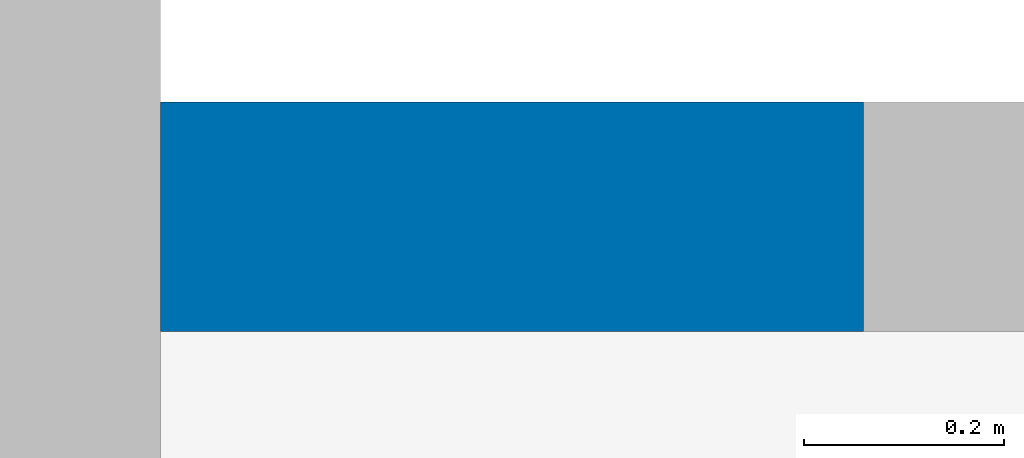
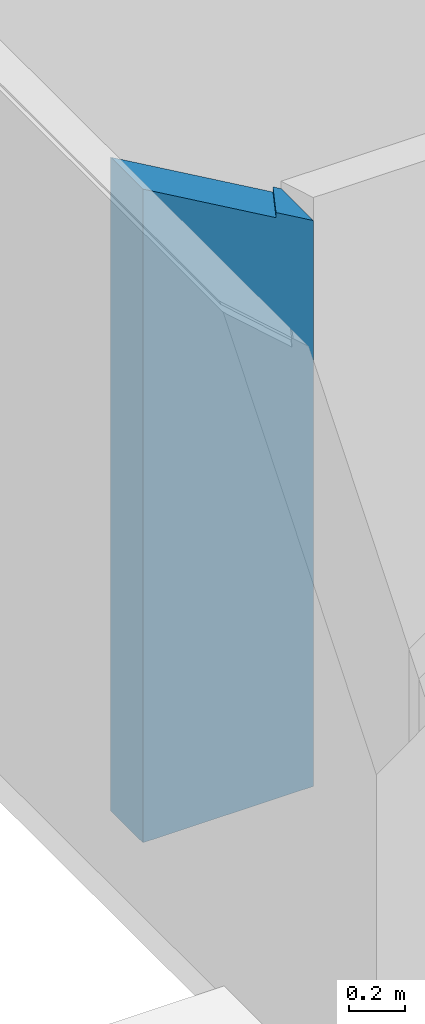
# One storey, part 7 of 8: 1 wall.
"""IFC2X3 building model written with IfcOpenShell, lengths in metres."""

from ifc_helpers import new_model, entity, si_unit, converted_unit, derived_unit, money_unit, direction, frame, origin_with_axes, place, context, subcontext, project, spatial, polyline, outline, extrude, boolean, clip, bounded_halfspace, faceted_brep, material, type_object, element, save


model = new_model("IFC2X3")

# Units and contexts
model_context = context("Model", 3, precision=1e-05, world=origin_with_axes(), true_north=direction((0.0, 1.0)))
body_context = subcontext(model_context, "Body", "Model", "MODEL_VIEW")
ifc_project = project(units=[si_unit("LENGTHUNIT", "METRE"), si_unit("AREAUNIT", "SQUARE_METRE"), si_unit("VOLUMEUNIT", "CUBIC_METRE"), converted_unit("PLANEANGLEUNIT", "DEGREE", entity("IfcPlaneAngleMeasure", 0.0174532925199), si_unit("PLANEANGLEUNIT", "RADIAN"), dimensions=[0, 0, 0, 0, 0, 0, 0]), si_unit("SOLIDANGLEUNIT", "STERADIAN"), money_unit("CHF"), converted_unit("TIMEUNIT", "Year", entity("IfcTimeMeasure", 31556926.0), si_unit("TIMEUNIT", "SECOND"), dimensions=[0, 0, 1, 0, 0, 0, 0]), si_unit("MASSUNIT", "GRAM", prefix="KILO"), si_unit("THERMODYNAMICTEMPERATUREUNIT", "DEGREE_CELSIUS"), si_unit("LUMINOUSINTENSITYUNIT", "LUMEN"), si_unit("ENERGYUNIT", "JOULE", prefix="MEGA"), derived_unit("THERMALCONDUCTANCEUNIT", [(si_unit("POWERUNIT", "WATT"), 1), (si_unit("LENGTHUNIT", "METRE"), -1), (si_unit("THERMODYNAMICTEMPERATUREUNIT", "KELVIN"), -1)]), derived_unit("SPECIFICHEATCAPACITYUNIT", [(si_unit("ENERGYUNIT", "JOULE"), 1), (si_unit("MASSUNIT", "GRAM", prefix="KILO"), -1), (si_unit("THERMODYNAMICTEMPERATUREUNIT", "KELVIN"), -1)]), derived_unit("MASSDENSITYUNIT", [(si_unit("MASSUNIT", "GRAM", prefix="KILO"), 1), (si_unit("VOLUMEUNIT", "CUBIC_METRE"), -1)])], contexts=[model_context])

# Site, building, storey
site_placement = place(None, origin_with_axes())
site = spatial("IfcSite", under=ifc_project, at=site_placement, Name="Site", CompositionType="ELEMENT")
building_placement = place(site_placement, origin_with_axes())
building = spatial("IfcBuilding", under=site, at=building_placement, Name="Bâtiment", CompositionType="ELEMENT")
storey_placement = place(building_placement, frame((0.0, 0.0, 6.0), z_axis=(0.0, 0.0, 1.0), x_axis=(1.0, 0.0, 0.0)))
storey = spatial("IfcBuildingStorey", under=building, at=storey_placement, Name="COMBLES", CompositionType="ELEMENT", Elevation=6.0)

# Wall
ifc_material = material(Name="Hachure solide 2628782308")
wall_type = type_object("IfcWallType", Name="Hachure solide 2628782308 230", PredefinedType="NOTDEFINED")
wall_placement = place(storey_placement, frame((92.6776186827, 15.5803410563, -3.37), z_axis=(0.0, 0.0, 1.0), x_axis=(-1.0, 0.0, 0.0)))
element("IfcWall", 1, at=wall_placement, inside=storey, type_object=wall_type, material=ifc_material, Name="MurExt-017", context=body_context, shape_type="CSG", body=[
    boolean("DIFFERENCE", clip(clip(clip(clip(clip(extrude(outline(polyline([(0.0, 0.0), (0.93409963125, 0.0), (0.93409963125, 0.23), (0.0, 0.23), (0.0, 0.0)])), origin_with_axes(), (0.0, 0.0, 1.0), 3.0), bounded_halfspace(frame((0.0, -0.68204972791, 2.30256129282), z_axis=(0.0, 0.284015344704, -0.958819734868), x_axis=(0.0, 0.958819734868, 0.284015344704)), True, origin_with_axes(), polyline([(-4.28581049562, -0.01), (0.0286590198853, -0.01), (0.158927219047, 0.24), (-4.16075302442, 0.24), (-4.28581049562, 0.0), (-4.28581049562, -0.01)]))), bounded_halfspace(frame((0.0, -0.68204972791, 2.30256129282), z_axis=(0.0, 0.284015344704, -0.958819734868), x_axis=(0.0, 0.958819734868, 0.284015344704)), True, origin_with_axes(), polyline([(-4.28581049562, -0.01), (0.0286590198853, -0.01), (0.158927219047, 0.24), (-4.16075302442, 0.24), (-4.28581049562, 0.0), (-4.28581049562, -0.01)]))), bounded_halfspace(frame((0.0, -0.68204972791, 2.30256129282), z_axis=(0.0, 0.284015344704, -0.958819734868), x_axis=(0.0, 0.958819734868, 0.284015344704)), True, origin_with_axes(), polyline([(-4.28581049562, -0.01), (0.0286590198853, -0.01), (0.158927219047, 0.24), (-4.16075302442, 0.24), (-4.28581049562, 0.0), (-4.28581049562, -0.01)]))), bounded_halfspace(frame((-1.07054656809, 0.0, 1.8542410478), z_axis=(0.5, 0.0, -0.866025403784), x_axis=(0.0, 1.0, 0.0)), True, origin_with_axes(), polyline([(-4.16585945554, -0.01), (1.99895228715, -0.01), (2.12400976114, 0.23), (2.12400976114, 0.24), (-4.04080198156, 0.24), (-4.16585945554, 0.0), (-4.16585945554, -0.01)]))), bounded_halfspace(frame((-1.07487669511, 0.0, 1.8617410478), z_axis=(0.5, 0.0, -0.866025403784), x_axis=(0.0, 1.0, 0.0)), True, origin_with_axes(), polyline([(-4.16585945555, -0.01), (1.99895228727, -0.01), (2.12400975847, 0.23), (2.12400975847, 0.24), (-4.04080198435, 0.24), (-4.16585945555, 0.0), (-4.16585945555, -0.01)]))), faceted_brep([(0.0338697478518, 0.0, 2.51342311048), (0.0338697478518, 0.0, 2.52545260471), (0.0, 0.0, 2.52545260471), (0.0, 0.0, 2.50459362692), (0.033869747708, 2.61190180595e-10, 2.50459362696), (0.0338697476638, 3.41577433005e-10, 2.50187610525), (0.70409963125, 0.0, 2.88883350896), (0.70409963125, 0.0, 2.87944464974), (0.0338697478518, 0.0, 2.49248724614), (0.033869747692, 3.95907306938e-10, 2.46939323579), (0.70409963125, 0.0, 2.85635063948), (0.70409963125, 0.0, 0.0), (0.93409963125, 0.0, 0.0), (0.93409963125, 0.0, 3.0), (0.70409963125, 0.0, 3.0), (0.70409963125, 0.0, 2.90038051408), (0.153716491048, 0.229999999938, 2.58261665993), (0.15371649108, 0.23, 2.59358170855), (0.0, 0.23, 2.59358170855), (0.0, 0.23, 2.57272273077), (0.153716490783, 0.230000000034, 2.57272273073), (0.153716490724, 0.23, 2.57106965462), (0.70409963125, 0.23, 2.88883350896), (0.70409963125, 0.23, 2.87944464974), (0.15371649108, 0.23, 2.5616807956), (0.153716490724, 0.23, 2.53858678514), (0.70409963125, 0.23, 2.85635063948), (0.70409963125, 0.23, 0.0), (0.93409963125, 0.23, 0.0), (0.93409963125, 0.23, 3.0), (0.70409963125, 0.23, 3.0), (0.70409963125, 0.23, 2.90038051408)], [[[0, 1, 2, 3, 4, 5, 6, 7, 8, 9, 10, 11, 12, 13, 14, 15]], [[1, 0, 16, 17]], [[18, 2, 1, 17]], [[2, 18, 19, 3]], [[4, 3, 19, 20]], [[5, 4, 20, 21]], [[6, 5, 21, 22]], [[7, 6, 22, 23]], [[8, 7, 23, 24]], [[9, 8, 24, 25]], [[10, 9, 25, 26]], [[11, 10, 26, 27]], [[11, 27, 28, 12]], [[13, 12, 28, 29]], [[30, 14, 13, 29]], [[15, 14, 30, 31]], [[0, 15, 31, 16]], [[31, 30, 29, 28, 27, 26, 25, 24, 23, 22, 21, 20, 19, 18, 17, 16]]])),
])

save(model, "model.ifc")
